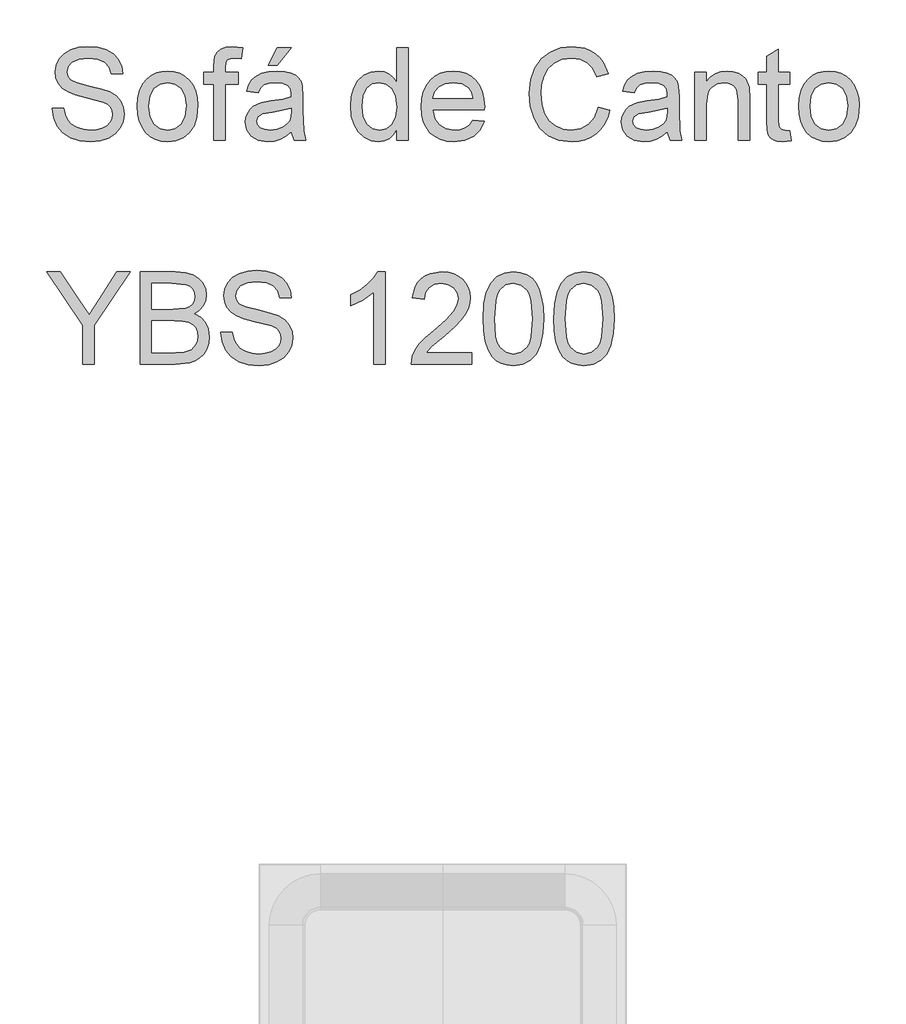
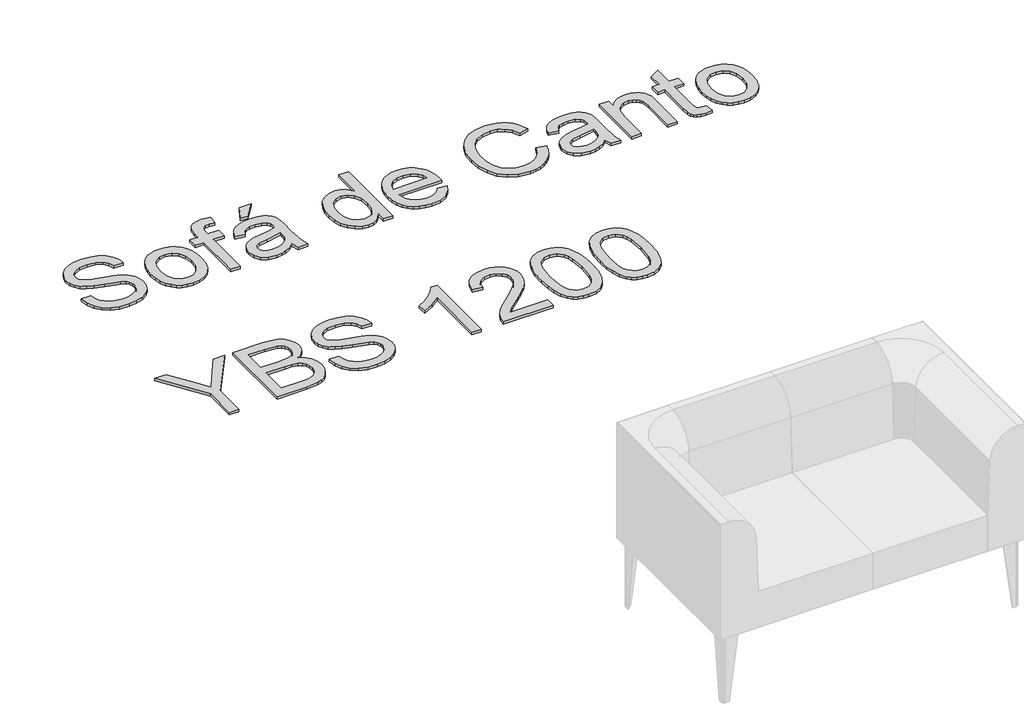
# One storey, part 19 of 26: 1 proxy.
"""IFC4 building model written with IfcOpenShell, lengths in millimetres."""

from ifc_helpers import new_model, si_unit, origin, origin_with_axes, place, context, project, spatial, polyline, outline, extrude, element, save

model = new_model("IFC4")

# Units and contexts
model_context = context("Model", 3, world=origin())
ifc_project = project(units=[si_unit("LENGTHUNIT", "METRE", prefix="MILLI")], contexts=[model_context])

# Site, building, storey
site = spatial("IfcSite", under=ifc_project)
building = spatial("IfcBuilding", under=site)
storey = spatial("IfcBuildingStorey", under=building, Name="Marelli - Linha YOUNG - Planta Baixa", Elevation=0.0)

# Proxy
placement = place(None, origin())
element("IfcBuildingElementProxy", 1, Name="300mm Arial", ObjectType="300mm Arial", at=placement, inside=storey, context=model_context, shape_type="SweptSolid", body=[
    extrude(outline(polyline([(29585.7785887, 188.9537033), (29623.449705, 188.9537033), (29627.7723184, 168.0488089), (29635.5898108, 151.2457988), (29647.7850989, 137.9100765), (29665.2410996, 127.4070455), (29686.5782553, 120.5920316), (29710.4170086, 118.3203602), (29731.4046764, 120.0402086), (29749.7803821, 125.1997535), (29764.6704059, 133.3667338), (29775.201028, 144.1088881), (29781.4642189, 156.442132), (29783.5519493, 169.3823812), (29781.9884508, 181.9915366), (29777.2979553, 192.8900407), (29767.7698117, 202.1882581), (29751.6933685, 209.9965534), (29696.842163, 224.3807394), (29660.8357127, 233.8996861), (29637.7971028, 242.9587802), (29619.0443181, 255.6323149), (29605.754581, 270.9913882), (29597.835921, 288.7049063), (29595.1963677, 308.4417753), (29598.4613204, 330.505498), (29608.2561786, 351.0792986), (29624.3234247, 368.5169052), (29646.4055415, 381.1720458), (29672.9114392, 388.8699765), (29702.2500283, 391.4359535), (29734.0350327, 388.7504149), (29761.8469115, 380.6937992), (29784.6923834, 367.4316533), (29801.578167, 349.129524), (29812.265139, 326.9278456), (29816.514176, 301.9670522), (29778.8430597, 301.9670522), (29771.9268782, 324.4446421), (29757.505904, 340.6682381), (29734.9731318, 350.4906874), (29703.7215563, 353.7648371), (29671.7342168, 350.5274756), (29649.7900558, 340.8153909), (29637.098127, 326.5231754), (29632.867484, 309.5454213), (29635.8657223, 295.0692648), (29644.8604371, 283.4257997), (29666.1240164, 273.0147392), (29706.3703067, 262.3829495), (29747.9041839, 252.2845888), (29773.0305242, 243.473815), (29794.5056357, 229.8069989), (29809.4876299, 212.9396094), (29818.2892067, 193.0555876), (29821.2230656, 170.3388744), (29817.8477483, 147.1163234), (29807.7217963, 125.2733299), (29791.2590771, 106.47456), (29768.8734577, 92.3846796), (29741.9536927, 83.5831028), (29711.8885366, 80.6492439), (29674.9807754, 83.8130291), (29644.6029197, 93.3043846), (29620.4054814, 109.1600986), (29602.0389728, 131.4169593), (29590.2483549, 158.5298623), (29585.7785887, 188.9537033)])), origin_with_axes(), (0.0, 0.0, 1.0), 10.0),
    extrude(outline(polyline([(29863.6030714, 196.0170376), (29865.640218, 224.6796436), (29871.7516576, 249.378321), (29881.9373903, 270.11307), (29896.1974162, 286.8838904), (29910.554011, 297.6030521), (29926.400528, 305.2595961), (29943.736967, 309.8535225), (29962.5633281, 311.3848313), (29983.3463616, 309.5201294), (30002.1382337, 303.9260239), (30018.9389446, 294.6025145), (30033.7484942, 281.5496015), (30045.835717, 265.2087431), (30054.4694476, 246.0213978), (30059.6496859, 223.9875656), (30061.376432, 199.1072464), (30058.3230115, 161.049854), (30049.1627498, 132.0791469), (30034.1623614, 110.3833062), (30013.5885608, 94.1505132), (29989.1519993, 84.0245612), (29962.5633281, 80.6492439), (29941.476792, 82.507048), (29922.5101759, 88.0804602), (29905.6634798, 97.3694806), (29890.9367037, 110.3741091), (29878.9782395, 126.8736166), (29870.4364795, 146.6472739), (29865.3114234, 169.6950809), (29863.6030714, 196.0170376)]), holes=[polyline([(29901.2741877, 196.090614), (29905.6335894, 161.9971501), (29918.7117943, 137.7077414), (29938.393481, 123.1672055), (29962.5633281, 118.3203602), (29986.6228106, 123.1947967), (30006.2677091, 137.818106), (30019.3459141, 162.4294115), (30023.7053157, 197.2678364), (30019.3183229, 230.3680189), (30006.1573445, 254.3263339), (29986.4848548, 268.8668697), (29962.5633281, 273.713715), (29938.393481, 268.8852638), (29918.7117943, 254.3999103), (29905.6335894, 230.1656838), (29901.2741877, 196.090614)])]), origin_with_axes(), (0.0, 0.0, 1.0), 10.0),
    extrude(outline(polyline([(30113.1742169, 85.3581335), (30113.1742169, 269.0048255), (30080.2119902, 269.0048255), (30080.2119902, 306.6759418), (30113.1742169, 306.6759418), (30113.1742169, 328.9695907), (30117.1473425, 360.3867131), (30124.7257116, 372.913095), (30136.424359, 382.8275148), (30152.7951078, 389.2838438), (30174.3897809, 391.4359535), (30208.7499593, 387.3156751), (30203.2317294, 351.9990036), (30181.5266916, 353.7648371), (30167.206885, 352.2013387), (30157.798303, 347.5108432), (30152.5835757, 338.5529166), (30150.8453332, 324.1871247), (30150.8453332, 306.6759418), (30193.2253391, 306.6759418), (30193.2253391, 269.0048255), (30150.8453332, 269.0048255), (30150.8453332, 85.3581335), (30113.1742169, 85.3581335)])), origin_with_axes(), (0.0, 0.0, 1.0), 10.0),
    extrude(outline(polyline([(30367.454252, 113.6114707), (30349.4556254, 98.178821), (30330.9235699, 88.0804602), (30311.4350212, 82.507048), (30290.566915, 80.6492439), (30259.0854133, 85.1190102), (30235.8628623, 98.5283089), (30221.5430557, 118.8905773), (30216.7697868, 144.2192527), (30218.5724086, 159.8358434), (30223.9802739, 174.0176943), (30232.3219981, 186.1578001), (30242.9261966, 195.6491556), (30269.3033357, 208.0099907), (30301.8976805, 213.6753734), (30340.4149254, 219.6350617), (30367.2335228, 226.6248196), (30367.454252, 235.0125291), (30364.8606839, 251.8247363), (30357.0799797, 262.8244079), (30339.6791614, 270.9913882), (30315.4357379, 273.713715), (30292.9949362, 271.9018962), (30277.3231632, 266.4664397), (30266.6361912, 256.4140642), (30259.1497926, 240.7514882), (30221.4786763, 245.4603778), (30228.0177788, 266.0617695), (30237.7758487, 282.2485773), (30251.663394, 294.6278064), (30270.5909227, 303.8064622), (30293.7398972, 309.490239), (30320.2917802, 311.3848313), (30345.7584113, 309.7109682), (30365.9459358, 304.689379), (30381.1670534, 297.138601), (30391.7344637, 287.8771718), (30398.7426157, 276.4268447), (30403.2859583, 262.3093731), (30405.1253683, 229.3471464), (30405.1253683, 182.4789802), (30407.0383547, 117.0327733), (30414.5431474, 85.3581335), (30376.8720311, 85.3581335), (30367.454252, 113.6114707)]), holes=[polyline([(30367.454252, 188.9537033), (30306.6801464, 177.4022087), (30274.2697426, 171.2953675), (30259.591251, 161.3625537), (30254.4409031, 146.8680031), (30257.2460033, 135.6659963), (30265.6613039, 126.4873405), (30279.502864, 120.3621053), (30298.5867425, 118.3203602), (30318.8202522, 120.5736375), (30336.6993172, 127.3334691), (30351.1938678, 137.2938741), (30361.2738345, 149.1488714), (30365.7436007, 161.3625537), (30367.2335228, 178.2851254), (30367.454252, 188.9537033)])]), origin_with_axes(), (0.0, 0.0, 1.0), 10.0),
    extrude(outline(polyline([(30292.1120194, 330.2203895), (30320.3653566, 386.7270639), (30367.454252, 386.7270639), (30320.3653566, 330.2203895), (30292.1120194, 330.2203895)])), origin_with_axes(), (0.0, 0.0, 1.0), 10.0),
    extrude(outline(polyline([(30711.2031883, 85.3581335), (30711.2031883, 120.8955342), (30699.9322037, 103.2877822), (30686.2791831, 90.7108165), (30670.2441267, 83.1646371), (30651.8270343, 80.6492439), (30627.4732462, 84.2912757), (30605.1795973, 95.2173709), (30586.3072509, 112.6641746), (30572.2173705, 135.8683314), (30563.4433849, 163.8917424), (30560.5187231, 195.7963084), (30563.2134587, 227.3054013), (30571.2976655, 255.7610736), (30584.7621466, 279.5446446), (30603.5977047, 297.0374335), (30626.3787973, 307.7979819), (30651.6798815, 311.3848313), (30670.1107694, 308.8188544), (30686.4079418, 301.1209236), (30700.2219107, 289.3211086), (30711.2031883, 274.449479), (30711.2031883, 386.7270639), (30748.8743046, 386.7270639), (30748.8743046, 85.3581335), (30711.2031883, 85.3581335)]), holes=[polyline([(30598.1898394, 195.9434612), (30602.4388764, 161.8683914), (30615.1859876, 137.634165), (30633.708846, 123.1488114), (30655.285125, 118.3203602), (30676.852207, 122.9280822), (30694.9060159, 136.7512482), (30707.1288952, 160.0473755), (30711.2031883, 193.0739817), (30707.0553188, 229.1815995), (30694.6117103, 254.2159693), (30676.0980489, 268.8392786), (30653.7400207, 273.713715), (30631.9430124, 269.0324166), (30614.0823416, 254.9885214), (30602.1629649, 230.8646596), (30598.1898394, 195.9434612)])]), origin_with_axes(), (0.0, 0.0, 1.0), 10.0),
    extrude(outline(polyline([(30960.3328754, 151.282587), (30997.2682277, 146.5736975), (30983.9600966, 118.7434245), (30962.7241084, 97.9396977), (30934.0385098, 84.9718574), (30898.3815474, 80.6492439), (30875.0072452, 82.5139458), (30854.1805257, 88.1080514), (30835.9013891, 97.4315607), (30820.1698353, 110.4844737), (30807.5192932, 126.903507), (30798.4831917, 146.3253771), (30793.0615307, 168.750084), (30791.2543104, 194.1776276), (30793.0799248, 220.4673947), (30798.5567681, 243.6393619), (30807.6848401, 263.6935292), (30820.4641409, 280.6298965), (30836.154308, 294.0851805), (30854.0149788, 303.6960976), (30874.0461535, 309.4626479), (30896.2478319, 311.3848313), (30917.7344397, 309.4672464), (30937.1655068, 303.7144917), (30954.5410333, 294.1265672), (30969.8610191, 280.7034729), (30982.3667077, 263.8038938), (30991.2993424, 243.7865147), (30996.6589232, 220.6513357), (30998.4454501, 194.3983568), (30998.2247209, 184.2448138), (30828.9254268, 184.2448138), (30835.4461351, 156.0466588), (30850.5936763, 135.3165084), (30872.4550638, 122.5693973), (30899.1173114, 118.3203602), (30919.1668802, 120.2885289), (30936.0526637, 126.1930349), (30949.7746622, 136.4017603), (30960.3328754, 151.282587)]), holes=[polyline([(30828.9254268, 221.9159301), (30960.7743338, 221.9159301), (30955.6791682, 241.818346), (30945.691172, 256.0553792), (30923.7286169, 269.2991311), (30896.1006791, 273.713715), (30870.7076244, 270.1912449), (30849.7107595, 259.6238346), (30835.1150413, 243.1519182), (30828.9254268, 221.9159301)])]), origin_with_axes(), (0.0, 0.0, 1.0), 10.0),
    extrude(outline(polyline([(31370.4477237, 192.4853705), (31408.11884, 182.7732858), (31400.664631, 159.3461005), (31390.7364157, 138.8757667), (31378.3341939, 121.3622845), (31363.4579657, 106.8056538), (31346.4434235, 95.3622245), (31327.6262594, 87.1883464), (31307.0064736, 82.2840195), (31284.584066, 80.6492439), (31240.888882, 85.5972568), (31206.1884128, 100.4412953), (31179.5905446, 124.6663247), (31160.2031634, 157.7573101), (31148.3665602, 196.6608311), (31144.4210258, 238.3234671), (31148.881595, 282.2669714), (31162.2633026, 320.2139992), (31183.8671728, 350.9597369), (31212.9942297, 373.2993711), (31247.5383491, 386.9018079), (31285.3934064, 391.4359535), (31326.6973574, 385.5682356), (31344.6660936, 378.2335884), (31360.8460036, 367.9650822), (31374.9703729, 355.03403), (31386.7724872, 339.7117449), (31403.4099504, 301.8934758), (31365.7388341, 292.9171551), (31352.6790233, 320.3887431), (31334.8367465, 339.2334983), (31311.9912746, 350.1320024), (31283.9218784, 353.7648371), (31251.5666569, 349.7365293), (31224.9871828, 337.6516058), (31204.8180524, 318.7792594), (31191.6938622, 294.3886831), (31184.4925721, 266.8159276), (31182.0921421, 238.3970435), (31184.9340305, 203.5954067), (31193.4596958, 173.5026595), (31207.9910346, 149.2684331), (31228.8499437, 132.0423587), (31253.8567223, 121.7508598), (31280.8316696, 118.3203602), (31312.2763832, 122.9924616), (31338.4787783, 137.0087656), (31358.2616326, 160.2221195), (31370.4477237, 192.4853705)])), origin_with_axes(), (0.0, 0.0, 1.0), 10.0),
    extrude(outline(polyline([(31596.4744215, 113.6114707), (31578.4757949, 98.178821), (31559.9437394, 88.0804602), (31540.4551907, 82.507048), (31519.5870845, 80.6492439), (31488.1055828, 85.1190102), (31464.8830318, 98.5283089), (31450.5632252, 118.8905773), (31445.7899563, 144.2192527), (31447.592578, 159.8358434), (31453.0004434, 174.0176943), (31461.3421676, 186.1578001), (31471.9463661, 195.6491556), (31498.3235052, 208.0099907), (31530.91785, 213.6753734), (31569.4350948, 219.6350617), (31596.2536923, 226.6248196), (31596.4744215, 235.0125291), (31593.8808534, 251.8247363), (31586.1001492, 262.8244079), (31568.6993309, 270.9913882), (31544.4559074, 273.713715), (31522.0151057, 271.9018962), (31506.3433327, 266.4664397), (31495.6563607, 256.4140642), (31488.1699621, 240.7514882), (31450.4988458, 245.4603778), (31457.0379483, 266.0617695), (31466.7960182, 282.2485773), (31480.6835635, 294.6278064), (31499.6110922, 303.8064622), (31522.7600667, 309.490239), (31549.3119497, 311.3848313), (31574.7785808, 309.7109682), (31594.9661053, 304.689379), (31610.1872229, 297.138601), (31620.7546332, 287.8771718), (31627.7627852, 276.4268447), (31632.3061278, 262.3093731), (31634.1455378, 229.3471464), (31634.1455378, 182.4789802), (31636.0585242, 117.0327733), (31643.5633169, 85.3581335), (31605.8922006, 85.3581335), (31596.4744215, 113.6114707)]), holes=[polyline([(31596.4744215, 188.9537033), (31535.7003159, 177.4022087), (31503.2899121, 171.2953675), (31488.6114205, 161.3625537), (31483.4610726, 146.8680031), (31486.2661728, 135.6659963), (31494.6814734, 126.4873405), (31508.5230335, 120.3621053), (31527.606912, 118.3203602), (31547.8404217, 120.5736375), (31565.7194867, 127.3334691), (31580.2140373, 137.2938741), (31590.294004, 149.1488714), (31594.7637702, 161.3625537), (31596.2536923, 178.2851254), (31596.4744215, 188.9537033)])]), origin_with_axes(), (0.0, 0.0, 1.0), 10.0),
    extrude(outline(polyline([(31685.9433227, 85.3581335), (31685.9433227, 306.6759418), (31723.614439, 306.6759418), (31723.614439, 275.7738542), (31736.701841, 291.3536567), (31752.4195992, 302.482087), (31770.7677138, 309.1591452), (31791.7461845, 311.3848313), (31810.3150282, 309.5914066), (31827.3203735, 304.2111324), (31841.5022244, 295.9153934), (31851.6005851, 285.3755742), (31862.8945624, 257.67406), (31864.8811252, 221.2537425), (31864.8811252, 85.3581335), (31827.2100089, 85.3581335), (31827.2100089, 216.176971), (31822.8690013, 249.5070797), (31816.8633278, 259.4306965), (31807.5283221, 267.1286273), (31795.5629602, 272.0674431), (31781.6662179, 273.713715), (31759.6024952, 270.0165009), (31740.7945282, 258.9248588), (31733.2782392, 249.8703632), (31727.9094613, 237.4957326), (31723.614439, 202.7860663), (31723.614439, 85.3581335), (31685.9433227, 85.3581335)])), origin_with_axes(), (0.0, 0.0, 1.0), 10.0),
    extrude(outline(polyline([(31996.7300322, 116.7752559), (32001.4389218, 84.2544875), (31973.259161, 80.6492439), (31955.1777609, 82.2127424), (31941.6948858, 86.9032378), (31932.1667421, 94.1321191), (31925.9495364, 103.3107748), (31922.5282338, 119.0745183), (31921.3877996, 146.0586627), (31921.3877996, 269.0048255), (31893.1344624, 269.0048255), (31893.1344624, 306.6759418), (31921.3877996, 306.6759418), (31921.3877996, 360.4602895), (31959.0589159, 382.6067856), (31959.0589159, 306.6759418), (31996.7300322, 306.6759418), (31996.7300322, 269.0048255), (31959.0589159, 269.0048255), (31959.0589159, 147.1623087), (31961.0454787, 127.7381393), (31967.4834136, 120.858746), (31980.3224953, 118.3203602), (31996.7300322, 116.7752559)])), origin_with_axes(), (0.0, 0.0, 1.0), 10.0),
    extrude(outline(polyline([(32024.9833695, 196.0170376), (32027.020516, 224.6796436), (32033.1319557, 249.378321), (32043.3176884, 270.11307), (32057.5777142, 286.8838904), (32071.9343091, 297.6030521), (32087.780826, 305.2595961), (32105.1172651, 309.8535225), (32123.9436262, 311.3848313), (32144.7266596, 309.5201294), (32163.5185318, 303.9260239), (32180.3192427, 294.6025145), (32195.1287922, 281.5496015), (32207.216015, 265.2087431), (32215.8497456, 246.0213978), (32221.029984, 223.9875656), (32222.7567301, 199.1072464), (32219.7033095, 161.049854), (32210.5430478, 132.0791469), (32195.5426595, 110.3833062), (32174.9688589, 94.1505132), (32150.5322974, 84.0245612), (32123.9436262, 80.6492439), (32102.8570901, 82.507048), (32083.890474, 88.0804602), (32067.0437778, 97.3694806), (32052.3170017, 110.3741091), (32040.3585376, 126.8736166), (32031.8167775, 146.6472739), (32026.6917215, 169.6950809), (32024.9833695, 196.0170376)]), holes=[polyline([(32062.6544858, 196.090614), (32067.0138874, 161.9971501), (32080.0920924, 137.7077414), (32099.7737791, 123.1672055), (32123.9436262, 118.3203602), (32148.0031087, 123.1947967), (32167.6480072, 137.818106), (32180.7262121, 162.4294115), (32185.0856138, 197.2678364), (32180.698621, 230.3680189), (32167.5376426, 254.3263339), (32147.8651529, 268.8668697), (32123.9436262, 273.713715), (32099.7737791, 268.8852638), (32080.0920924, 254.3999103), (32067.0138874, 230.1656838), (32062.6544858, 196.090614)])]), origin_with_axes(), (0.0, 0.0, 1.0), 10.0),
    extrude(outline(polyline([(29684.665269, -646.4907736), (29684.665269, -518.8357213), (29566.9430305, -345.1218432), (29611.3831755, -345.1218432), (29674.2174203, -437.9016823), (29706.3703067, -485.2113069), (29738.5967694, -434.517168), (29795.6184787, -345.1218432), (29840.0586237, -345.1218432), (29722.3363853, -518.8357213), (29722.3363853, -646.4907736), (29684.665269, -646.4907736)])), origin_with_axes(), (0.0, 0.0, 1.0), 10.0),
    extrude(outline(polyline([(29873.0208505, -646.4907736), (29873.0208505, -345.1218432), (29988.0207622, -345.1218432), (30019.6494167, -347.3383322), (30044.3434956, -353.9877992), (30063.2710243, -365.2357912), (30077.600028, -381.2478551), (30086.6223339, -400.0834132), (30089.6297692, -419.8018882), (30087.1005805, -437.9476676), (30079.5130144, -455.0081951), (30066.8118885, -469.9350071), (30048.9420206, -481.6796398), (30070.2883734, -492.8264642), (30086.0613139, -509.7858242), (30095.8009897, -531.4356796), (30099.0475483, -556.6539904), (30096.8310593, -577.6692494), (30090.1815922, -597.1577981), (30080.2579754, -613.7308819), (30068.2190371, -625.9997465), (30053.4761662, -634.8840967), (30035.4407514, -641.3036375), (29987.1378454, -646.4907736), (29873.0208505, -646.4907736)]), holes=[polyline([(29910.6919668, -467.5529711), (29979.4858999, -467.5529711), (30019.6586138, -464.3156096), (30033.720903, -458.7330003), (30043.8284608, -450.372882), (30049.9261049, -439.3640133), (30051.9586529, -425.8351529), (30050.0640607, -412.7017657), (30044.3802838, -401.2606356), (30035.1648399, -392.3303002), (30022.6752461, -386.7292968), (29974.2619756, -382.7929595), (29910.6919668, -382.7929595), (29910.6919668, -467.5529711)]), polyline([(29910.6919668, -608.8196573), (29987.9471858, -608.8196573), (30015.9062174, -607.3481293), (30039.5610297, -599.1443608), (30055.2328027, -582.40573), (30059.8405247, -570.5783239), (30061.376432, -557.0218724), (30059.5738102, -541.276523), (30054.1659449, -527.7384656), (30044.7205747, -517.1526611), (30030.8054382, -510.2640708), (30011.0961603, -506.4840833), (29984.2683658, -505.2240875), (29910.6919668, -505.2240875), (29910.6919668, -608.8196573)])]), origin_with_axes(), (0.0, 0.0, 1.0), 10.0),
    extrude(outline(polyline([(30136.7186646, -542.8952038), (30174.3897809, -542.8952038), (30178.7123944, -563.8000981), (30186.5298868, -580.6031083), (30198.7251749, -593.9388306), (30216.1811756, -604.4418616), (30237.5183313, -611.2568755), (30261.3570846, -613.5285468), (30282.3447524, -611.8086985), (30300.7204581, -606.6491535), (30315.6104818, -598.4821732), (30326.1411039, -587.740019), (30332.4042949, -575.4067751), (30334.4920252, -562.4665259), (30332.9285268, -549.8573705), (30328.2380313, -538.9588664), (30318.7098876, -529.660649), (30302.6334445, -521.8523536), (30247.782239, -507.4681676), (30211.7757887, -497.949221), (30188.7371787, -488.8901269), (30169.984394, -476.2165921), (30156.694657, -460.8575188), (30148.775997, -443.1440008), (30146.1364437, -423.4071317), (30149.4013964, -401.3434091), (30159.1962545, -380.7696085), (30175.2635007, -363.3320019), (30197.3456174, -350.6768613), (30223.8515152, -342.9789305), (30253.1901043, -340.4129536), (30284.9751087, -343.0984922), (30312.7869875, -351.1551079), (30335.6324594, -364.4172538), (30352.518243, -382.7193831), (30363.205215, -404.9210615), (30367.454252, -429.8818548), (30329.7831357, -429.8818548), (30322.8669542, -407.4042649), (30308.44598, -391.180669), (30285.9132078, -381.3582197), (30254.6616323, -378.0840699), (30222.6742928, -381.3214315), (30200.7301318, -391.0335162), (30188.038203, -405.3257317), (30183.80756, -422.3034857), (30186.8057983, -436.7796423), (30195.8005131, -448.4231074), (30217.0640924, -458.8341679), (30257.3103826, -469.4659575), (30298.8442599, -479.5643183), (30323.9706002, -488.3750921), (30345.4457116, -502.0419082), (30360.4277059, -518.9092977), (30369.2292826, -538.7933195), (30372.1631415, -561.5100327), (30368.7878242, -584.7325837), (30358.6618723, -606.5755771), (30342.199153, -625.3743471), (30319.8135336, -639.4642275), (30292.8937686, -648.2658042), (30262.8286126, -651.1996631), (30225.9208514, -648.035878), (30195.5429957, -638.5445225), (30171.3455574, -622.6888085), (30152.9790488, -600.4319478), (30141.1884309, -573.3190448), (30136.7186646, -542.8952038)])), origin_with_axes(), (0.0, 0.0, 1.0), 10.0),
    extrude(outline(polyline([(30673.532072, -646.4907736), (30635.8609557, -646.4907736), (30635.8609557, -411.6349079), (30600.1764022, -437.0555537), (30560.5187231, -456.0750529), (30560.5187231, -420.4640758), (30590.1056325, -404.3692385), (30615.7378105, -385.2209806), (30635.9437291, -364.8587122), (30649.2518603, -345.1218432), (30673.532072, -345.1218432), (30673.532072, -646.4907736)])), origin_with_axes(), (0.0, 0.0, 1.0), 10.0),
    extrude(outline(polyline([(30956.0654443, -608.8196573), (30956.0654443, -646.4907736), (30758.2920837, -646.4907736), (30762.3387856, -620.5183047), (30771.627806, -600.2204157), (30785.2210457, -580.5295319), (30804.8843384, -559.9189431), (30832.3835175, -536.861939), (30873.034478, -500.7543212), (30897.4250543, -474.1012707), (30909.6203424, -452.4698093), (30913.6854384, -431.4269592), (30909.8502686, -412.5638099), (30898.3447592, -396.8828399), (30880.6588323, -386.3154296), (30858.28241, -382.7929595), (30834.7839475, -386.2326561), (30816.5278035, -396.5517461), (30804.7463826, -412.940889), (30800.6720895, -434.5907444), (30763.0009732, -429.8818548), (30772.1336437, -393.4431432), (30780.6800023, -378.9072059), (30791.8797098, -366.8268809), (30805.4752488, -357.3309269), (30821.2091019, -350.5481026), (30859.0917504, -345.1218432), (30879.2815741, -346.6301593), (30897.2503103, -351.1551079), (30912.997959, -358.6966888), (30926.5245201, -369.254902), (30937.3885352, -382.0479984), (30945.1485461, -396.2942287), (30949.8045526, -411.9935928), (30951.3565547, -429.1460909), (30949.6826917, -447.1631116), (30944.6611024, -464.8674326), (30935.7491611, -482.8752562), (30922.4042417, -501.8027849), (30901.1314654, -524.3999365), (30868.435953, -553.4166288), (30825.099454, -589.6530053), (30808.1033058, -608.8196573), (30956.0654443, -608.8196573)])), origin_with_axes(), (0.0, 0.0, 1.0), 10.0),
    extrude(outline(polyline([(30993.7365606, -498.2343295), (30996.5048726, -449.9958029), (31004.8098086, -411.5245433), (31018.5685953, -382.2319394), (31037.698459, -361.5293801), (31062.3373556, -349.2237274), (31092.6232409, -345.1218432), (31115.8365948, -347.5498643), (31136.6219275, -354.8339278), (31154.0043518, -366.6889251), (31167.0089803, -382.8297477), (31176.8314296, -403.1184397), (31184.6673161, -427.4170455), (31189.7992699, -458.2731478), (31191.5099212, -498.2343295), (31188.7692003, -546.1969447), (31180.5470377, -584.5762338), (31166.8710246, -613.8964288), (31147.768752, -634.6817616), (31123.074673, -647.0701877), (31092.6232409, -651.1996631), (31071.8746964, -649.4062384), (31053.4805966, -644.0259642), (31037.4409416, -635.0588406), (31023.7557314, -622.5048675), (31010.6223442, -599.8111469), (31001.2413533, -571.5348171), (30995.6127588, -537.675878), (30993.7365606, -498.2343295)]), holes=[polyline([(31031.4076769, -498.1607531), (31035.8222608, -557.4173455), (31041.3404908, -577.6853442), (31049.0660127, -591.7131445), (31068.7844876, -608.0746963), (31092.6232409, -613.5285468), (31116.4619942, -608.0563022), (31136.1804691, -591.6395681), (31143.905991, -577.5887752), (31149.424221, -557.325375), (31153.8388049, -498.1607531), (31149.5713737, -440.237733), (31144.2370848, -420.0364129), (31136.7690803, -405.6752196), (31117.0873936, -388.5135245), (31092.1817825, -382.7929595), (31068.6005466, -387.8329428), (31049.6546239, -402.9528928), (31041.6715846, -418.5878776), (31035.9694136, -439.6675159), (31031.4076769, -498.1607531)])]), origin_with_axes(), (0.0, 0.0, 1.0), 10.0),
    extrude(outline(polyline([(31224.472148, -498.2343295), (31227.24046, -449.9958029), (31235.545396, -411.5245433), (31249.3041826, -382.2319394), (31268.4340464, -361.5293801), (31293.072943, -349.2237274), (31323.3588283, -345.1218432), (31346.5721822, -347.5498643), (31367.3575149, -354.8339278), (31384.7399392, -366.6889251), (31397.7445677, -382.8297477), (31407.567017, -403.1184397), (31415.4029035, -427.4170455), (31420.5348573, -458.2731478), (31422.2455086, -498.2343295), (31419.5047877, -546.1969447), (31411.2826251, -584.5762338), (31397.6066119, -613.8964288), (31378.5043393, -634.6817616), (31353.8102604, -647.0701877), (31323.3588283, -651.1996631), (31302.6102837, -649.4062384), (31284.216184, -644.0259642), (31268.176529, -635.0588406), (31254.4913188, -622.5048675), (31241.3579315, -599.8111469), (31231.9769407, -571.5348171), (31226.3483461, -537.675878), (31224.472148, -498.2343295)]), holes=[polyline([(31262.1432643, -498.1607531), (31266.5578482, -557.4173455), (31272.0760781, -577.6853442), (31279.8016, -591.7131445), (31299.520075, -608.0746963), (31323.3588283, -613.5285468), (31347.1975816, -608.0563022), (31366.9160565, -591.6395681), (31374.6415784, -577.5887752), (31380.1598083, -557.325375), (31384.5743923, -498.1607531), (31380.3069611, -440.237733), (31374.9726722, -420.0364129), (31367.5046677, -405.6752196), (31347.822981, -388.5135245), (31322.9173699, -382.7929595), (31299.336134, -387.8329428), (31280.3902112, -402.9528928), (31272.4071719, -418.5878776), (31266.705001, -439.6675159), (31262.1432643, -498.1607531)])]), origin_with_axes(), (0.0, 0.0, 1.0), 10.0),
])

save(model, "model.ifc")
